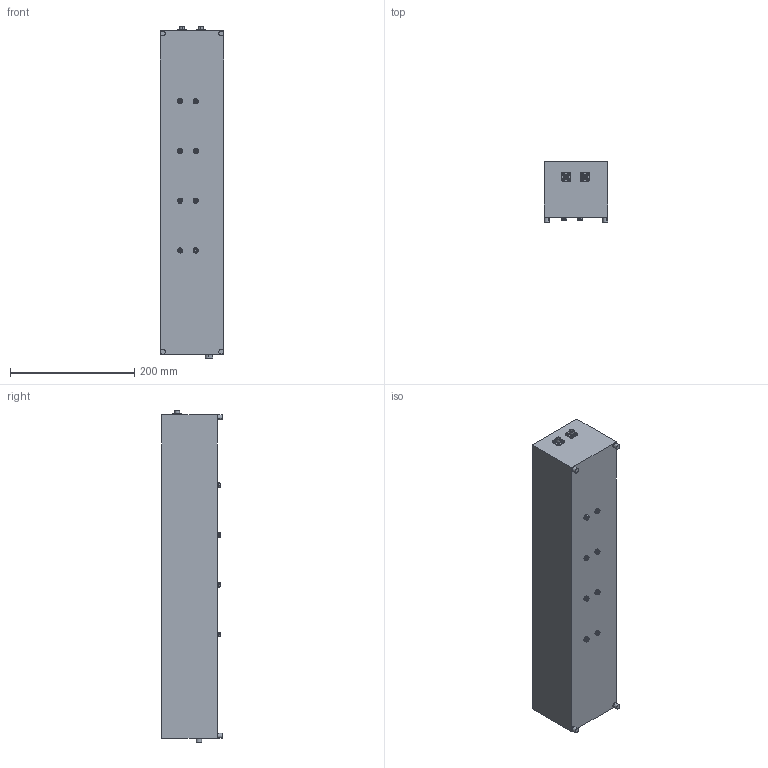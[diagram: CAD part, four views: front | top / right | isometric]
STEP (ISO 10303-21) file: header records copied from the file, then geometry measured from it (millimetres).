
FILE_DESCRIPTION (( 'STEP AP203' ), '1' );
FILE_NAME ('1200ps Motor Driven Delay Line assembly.STEP', '2025-01-07T22:29:36', ( '' ), ( '' ), 'SwSTEP 2.0', 'SolidWorks 2018', '' );
FILE_SCHEMA (( 'CONFIG_CONTROL_DESIGN' ));
Length unit declared in the file: millimetre
Products named in the file (5): 1200ps Motor Driven Delay Line assembly; connector-new; 93825A120_Steel Locknut with External-Tooth Lock Washer_93825A120; 1200ps box model; 93115K871_Load-Rated Threaded Bumper_93115K871
Assembly tree (15 placements, depth 2):
  1200ps Motor Driven Delay Line assembly
    1200ps box model
    93115K871_Load-Rated Threaded Bumper_93115K871  x4
    connector-new  x2
    93825A120_Steel Locknut with External-Tooth Lock Washer_93825A120  x8
Bounding box: 102 x 98 x 534 mm (x, y, z)
Volume: 4777265.5 mm3; surface area: 224460.1 mm2
Topology: 19 solids, 19 shells, 1649 faces, 4334 edges, 2824 vertices
Faces by surface type: plane 566, cylinder 423, bspline 356, cone 304
Entity records: 34684 total; most frequent: CARTESIAN_POINT 18151, ORIENTED_EDGE 3626, DIRECTION 2555, EDGE_CURVE 1813, VERTEX_POINT 1200, LINE 1049, VECTOR 1049, EDGE_LOOP 797
